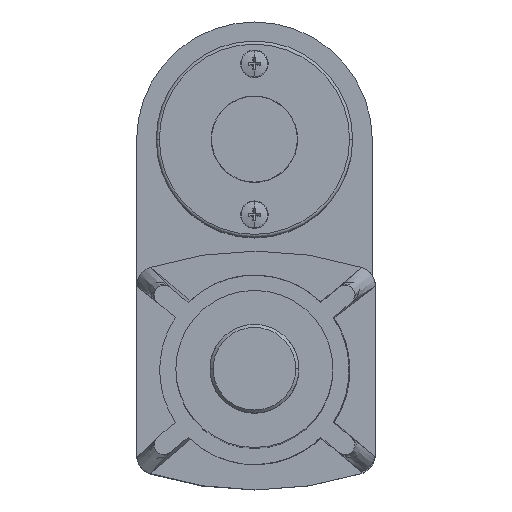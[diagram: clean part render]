
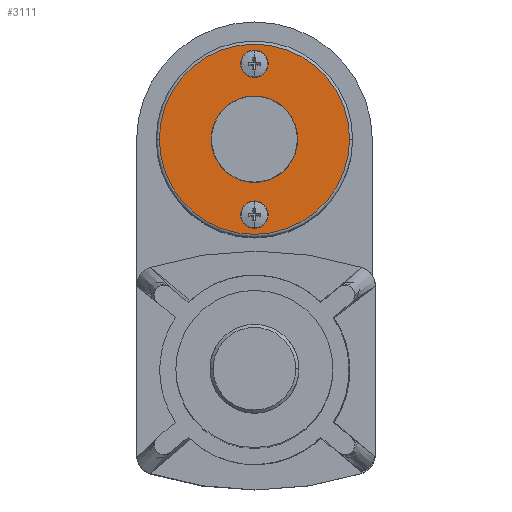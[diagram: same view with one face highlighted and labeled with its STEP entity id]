
A CAD part, top view. The second image highlights one B-rep face of the part: STEP entity #3111.
In plain terms, the highlighted planar face has unit normal (0, 0, 1).
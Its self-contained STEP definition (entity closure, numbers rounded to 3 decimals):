
#296 = CARTESIAN_POINT ( 'NONE',  ( 41.148, -7.238, 406.098 ) ) ;
#427 = PLANE ( 'NONE',  #4325 ) ;
#468 = FACE_OUTER_BOUND ( 'NONE', #10173, .T. ) ;
#615 = VERTEX_POINT ( 'NONE', #1716 ) ;
#1014 = CARTESIAN_POINT ( 'NONE',  ( 69.358, -31.638, 406.098 ) ) ;
#1222 = AXIS2_PLACEMENT_3D ( 'NONE', #7549, #7584, #8473 ) ;
#1580 = DIRECTION ( 'NONE',  ( -1., 0., 0. ) ) ;
#1716 = CARTESIAN_POINT ( 'NONE',  ( 7.858, -31.638, 406.098 ) ) ;
#1719 = DIRECTION ( 'NONE',  ( 0., 0., 1. ) ) ;
#1722 = CIRCLE ( 'NONE', #2243, 2.54 ) ;
#1769 = CARTESIAN_POINT ( 'NONE',  ( 41.148, -56.038, 406.098 ) ) ;
#2243 = AXIS2_PLACEMENT_3D ( 'NONE', #7448, #2428, #3258 ) ;
#2269 = VERTEX_POINT ( 'NONE', #1769 ) ;
#2321 = EDGE_CURVE ( 'NONE', #2530, #4387, #6889, .T. ) ;
#2428 = DIRECTION ( 'NONE',  ( 0., 0., 1. ) ) ;
#2432 = DIRECTION ( 'NONE',  ( -1., 0., 0. ) ) ;
#2508 = CARTESIAN_POINT ( 'NONE',  ( 38.608, -56.038, 406.098 ) ) ;
#2530 = VERTEX_POINT ( 'NONE', #5151 ) ;
#2603 = ORIENTED_EDGE ( 'NONE', *, *, #7714, .T. ) ;
#2673 = FACE_BOUND ( 'NONE', #9659, .T. ) ;
#2825 = ORIENTED_EDGE ( 'NONE', *, *, #7595, .F. ) ;
#3070 = DIRECTION ( 'NONE',  ( 0., 0., 1. ) ) ;
#3111 = ADVANCED_FACE ( 'NONE', ( #9393, #2673, #468 ), #427, .T. ) ;
#3122 = AXIS2_PLACEMENT_3D ( 'NONE', #2508, #1719, #3348 ) ;
#3258 = DIRECTION ( 'NONE',  ( -1., 0., 0. ) ) ;
#3348 = DIRECTION ( 'NONE',  ( -1., 0., 0. ) ) ;
#3419 = CIRCLE ( 'NONE', #8069, 30.75 ) ;
#3710 = DIRECTION ( 'NONE',  ( -1., 0., 0. ) ) ;
#4119 = CARTESIAN_POINT ( 'NONE',  ( 38.608, -31.638, 406.098 ) ) ;
#4223 = EDGE_CURVE ( 'NONE', #2269, #9566, #7235, .T. ) ;
#4325 = AXIS2_PLACEMENT_3D ( 'NONE', #7842, #4514, #3710 ) ;
#4387 = VERTEX_POINT ( 'NONE', #296 ) ;
#4514 = DIRECTION ( 'NONE',  ( 0., 0., 1. ) ) ;
#4728 = DIRECTION ( 'NONE',  ( -1., 0., 0. ) ) ;
#5105 = EDGE_LOOP ( 'NONE', ( #7996, #9854 ) ) ;
#5131 = CIRCLE ( 'NONE', #10067, 2.54 ) ;
#5151 = CARTESIAN_POINT ( 'NONE',  ( 36.068, -7.238, 406.098 ) ) ;
#5692 = EDGE_CURVE ( 'NONE', #9297, #615, #3419, .T. ) ;
#5851 = ORIENTED_EDGE ( 'NONE', *, *, #2321, .F. ) ;
#6420 = CARTESIAN_POINT ( 'NONE',  ( 36.068, -56.038, 406.098 ) ) ;
#6581 = CARTESIAN_POINT ( 'NONE',  ( 38.608, -7.238, 406.098 ) ) ;
#6843 = AXIS2_PLACEMENT_3D ( 'NONE', #6581, #8383, #1580 ) ;
#6889 = CIRCLE ( 'NONE', #6843, 2.54 ) ;
#7235 = CIRCLE ( 'NONE', #3122, 2.54 ) ;
#7448 = CARTESIAN_POINT ( 'NONE',  ( 38.608, -56.038, 406.098 ) ) ;
#7549 = CARTESIAN_POINT ( 'NONE',  ( 38.608, -31.638, 406.098 ) ) ;
#7584 = DIRECTION ( 'NONE',  ( 0., 0., 1. ) ) ;
#7595 = EDGE_CURVE ( 'NONE', #4387, #2530, #5131, .T. ) ;
#7714 = EDGE_CURVE ( 'NONE', #615, #9297, #8794, .T. ) ;
#7842 = CARTESIAN_POINT ( 'NONE',  ( 38.608, -31.638, 406.098 ) ) ;
#7996 = ORIENTED_EDGE ( 'NONE', *, *, #8317, .F. ) ;
#8069 = AXIS2_PLACEMENT_3D ( 'NONE', #4119, #9185, #2432 ) ;
#8317 = EDGE_CURVE ( 'NONE', #9566, #2269, #1722, .T. ) ;
#8383 = DIRECTION ( 'NONE',  ( 0., 0., 1. ) ) ;
#8473 = DIRECTION ( 'NONE',  ( -1., 0., 0. ) ) ;
#8794 = CIRCLE ( 'NONE', #1222, 30.75 ) ;
#8986 = CARTESIAN_POINT ( 'NONE',  ( 38.608, -7.238, 406.098 ) ) ;
#9185 = DIRECTION ( 'NONE',  ( 0., 0., 1. ) ) ;
#9297 = VERTEX_POINT ( 'NONE', #1014 ) ;
#9393 = FACE_BOUND ( 'NONE', #5105, .T. ) ;
#9566 = VERTEX_POINT ( 'NONE', #6420 ) ;
#9659 = EDGE_LOOP ( 'NONE', ( #5851, #2825 ) ) ;
#9854 = ORIENTED_EDGE ( 'NONE', *, *, #4223, .F. ) ;
#10067 = AXIS2_PLACEMENT_3D ( 'NONE', #8986, #3070, #4728 ) ;
#10173 = EDGE_LOOP ( 'NONE', ( #2603, #10287 ) ) ;
#10287 = ORIENTED_EDGE ( 'NONE', *, *, #5692, .T. ) ;
